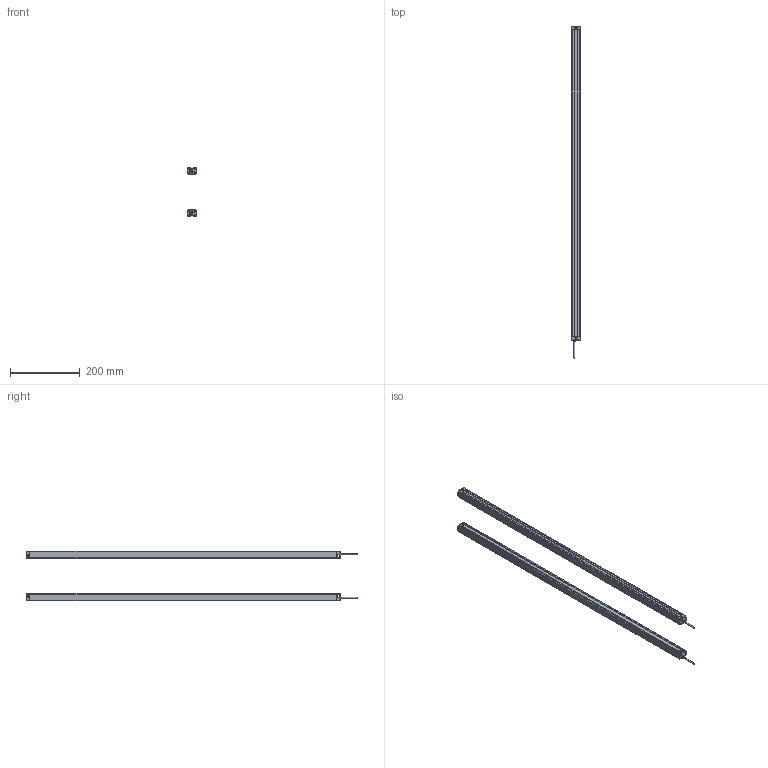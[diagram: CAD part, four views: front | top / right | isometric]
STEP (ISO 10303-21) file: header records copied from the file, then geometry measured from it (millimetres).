
FILE_DESCRIPTION (( 'STEP AP214' ), '1' );
FILE_NAME ('MTC4420.STEP', '2022-08-02T09:04:39', ( '' ), ( '' ), 'SwSTEP 2.0', 'SolidWorks 2018', '' );
FILE_SCHEMA (( 'AUTOMOTIVE_DESIGN' ));
Length unit declared in the file: millimetre
Products named in the file (5): P01^MTC; MTC waike^MTC; 噩砃P02^MTC; P02^MTC; MTC4420
Assembly tree (6 placements, depth 2):
  MTC4420
    MTC waike^MTC  x2
    P01^MTC  x2
    P02^MTC
    噩砃P02^MTC
Bounding box: 25 x 952 x 141.4 mm (x, y, z)
Volume: 298436 mm3; surface area: 412150.6 mm2
Topology: 8 solids, 8 shells, 480 faces, 1396 edges, 924 vertices
Faces by surface type: plane 272, cylinder 208
Entity records: 10886 total; most frequent: DIRECTION 1881, CARTESIAN_POINT 1878, ORIENTED_EDGE 1846, EDGE_CURVE 923, AXIS2_PLACEMENT_3D 637, VERTEX_POINT 610, LINE 607, VECTOR 607
